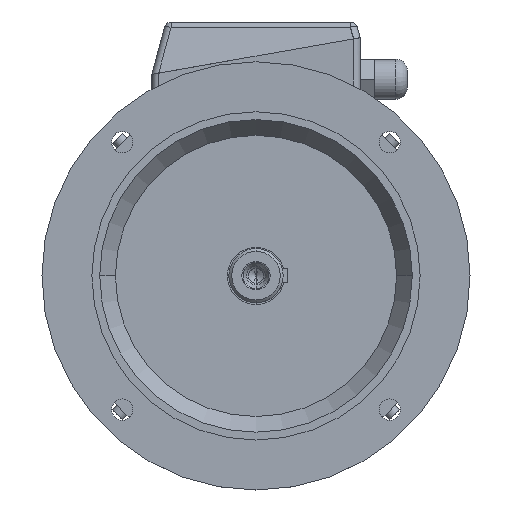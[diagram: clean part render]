
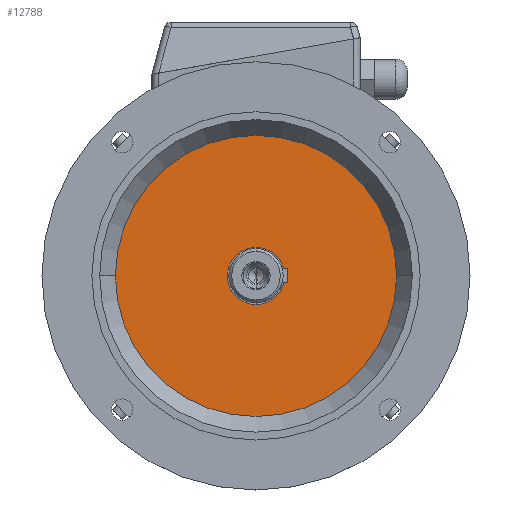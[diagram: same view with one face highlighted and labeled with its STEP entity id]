
A CAD part, top view. The second image highlights one B-rep face of the part: STEP entity #12788.
In plain terms, the highlighted planar face has unit normal (0, 0, 1).
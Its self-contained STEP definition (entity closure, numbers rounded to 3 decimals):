
#1567 = EDGE_CURVE ( 'NONE', #4663, #4720, #6387, .T. ) ;
#4663 = VERTEX_POINT ( 'NONE', #10684 ) ;
#4720 = VERTEX_POINT ( 'NONE', #10895 ) ;
#4767 = EDGE_CURVE ( 'NONE', #4720, #4663, #11077, .T. ) ;
#6387 = CIRCLE ( 'NONE', #6388, 98.5 ) ;
#6388 = AXIS2_PLACEMENT_3D ( 'NONE', #6389, #6390, #6391 ) ;
#6389 = CARTESIAN_POINT ( 'NONE',  ( 0., 0., 47. ) ) ;
#6390 = DIRECTION ( 'NONE',  ( 0., 0., -1. ) ) ;
#6391 = DIRECTION ( 'NONE',  ( -1., 0., 0. ) ) ;
#10684 = CARTESIAN_POINT ( 'NONE',  ( -98.5, 0., 47. ) ) ;
#10895 = CARTESIAN_POINT ( 'NONE',  ( 98.5, 0., 47. ) ) ;
#11077 = CIRCLE ( 'NONE', #11078, 98.5 ) ;
#11078 = AXIS2_PLACEMENT_3D ( 'NONE', #11079, #11080, #11081 ) ;
#11079 = CARTESIAN_POINT ( 'NONE',  ( 0., 0., 47. ) ) ;
#11080 = DIRECTION ( 'NONE',  ( 0., 0., -1. ) ) ;
#11081 = DIRECTION ( 'NONE',  ( -1., 0., 0. ) ) ;
#11384 = ORIENTED_EDGE ( 'NONE', *, *, #1567, .F. ) ;
#11769 = FACE_OUTER_BOUND ( 'NONE', #12536, .T. ) ;
#11770 = PLANE ( 'NONE',  #11771 ) ;
#11771 = AXIS2_PLACEMENT_3D ( 'NONE', #11772, #11773, #11777 ) ;
#11772 = CARTESIAN_POINT ( 'NONE',  ( 0., 98.5, 47. ) ) ;
#11773 = DIRECTION ( 'NONE',  ( 0., 0., 1. ) ) ;
#11777 = DIRECTION ( 'NONE',  ( 1., 0., 0. ) ) ;
#11972 = ORIENTED_EDGE ( 'NONE', *, *, #4767, .F. ) ;
#12536 = EDGE_LOOP ( 'NONE', ( #11972, #11384 ) ) ;
#12788 = ADVANCED_FACE ( 'NONE', ( #11769 ), #11770, .T. ) ;
